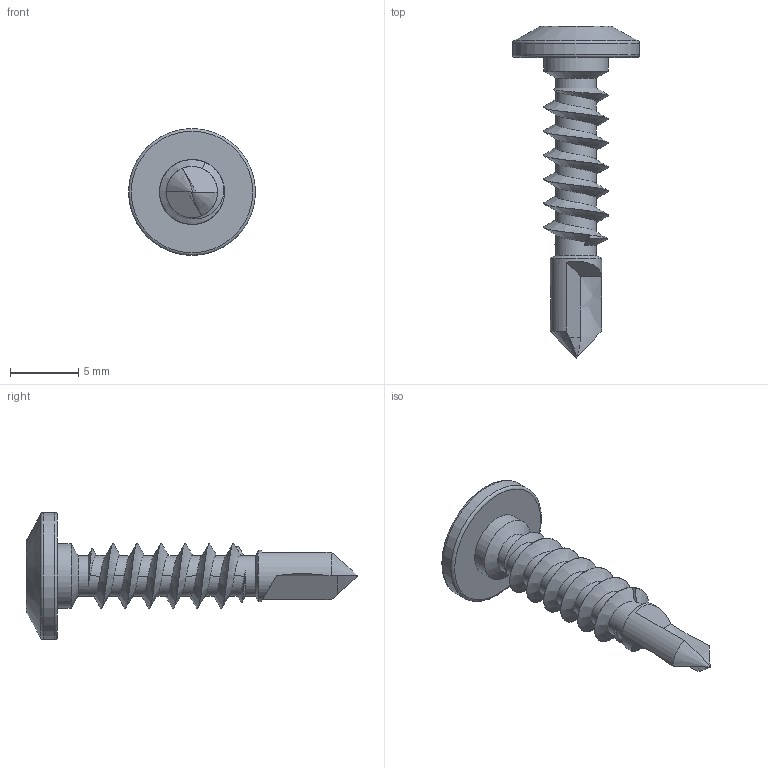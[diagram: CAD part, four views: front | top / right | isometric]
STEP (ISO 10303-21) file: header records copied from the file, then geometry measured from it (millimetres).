
FILE_DESCRIPTION(/* description */ ('G550 SS WAFER SCREW'),/* implementation_level */ '2;1');
FILE_NAME(/* name */ 'C:\Users\Callum\The Trustee for INKSTONE UNIT TRUST\GRP Australia - Documents\8 Drawings\Handrails\3D Models\Handrail Fittings STEP\10G x 22mm Wafer Screw.stp',/* time_stamp */ '2022-09-15T14:11:20+10:00',/* author */ ('Callum'),/* organization */ (''),/* preprocessor_version */ 'ST-DEVELOPER v18.1',/* originating_system */ 'Autodesk Inventor 2022',/* authorisation */ '');
FILE_SCHEMA (('AUTOMOTIVE_DESIGN { 1 0 10303 214 3 1 1 }'));
Length unit declared in the file: millimetre
Products named in the file (1): 10G x 22
Bounding box: 9.3 x 24.3 x 9.3 mm (x, y, z)
Volume: 295.3 mm3; surface area: 515 mm2
Topology: 1 solids, 1 shells, 75 faces, 197 edges, 125 vertices
Faces by surface type: cylinder 30, plane 22, cone 12, torus 7, bspline 4
Full cylindrical faces by diameter (mm): 3 x6, 3.75 x1, 4.75 x3, 9.3 x1
Entity records: 3424 total; most frequent: CARTESIAN_POINT 1607, ORIENTED_EDGE 392, DIRECTION 348, EDGE_CURVE 196, AXIS2_PLACEMENT_3D 129, VERTEX_POINT 125, LINE 90, VECTOR 90
